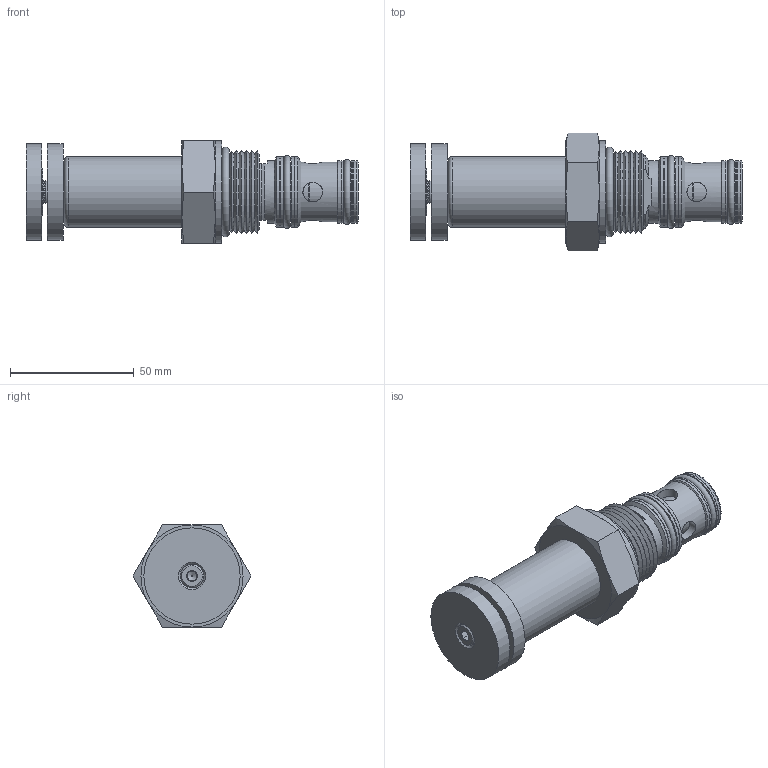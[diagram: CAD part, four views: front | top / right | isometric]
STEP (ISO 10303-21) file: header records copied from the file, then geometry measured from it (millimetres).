
FILE_DESCRIPTION((''),'2;1');
FILE_NAME('Q:\Delta CADD Insertion Codes\3D Solid models\Mechanical Valves\DWG\SLPWB0K.stp','2012-12-06T13:26:51',('Dan'),(''),'Autodesk Inventor 2012','Autodesk Inventor 2012','');
FILE_SCHEMA(('AUTOMOTIVE_DESIGN { 1 0 10303 214 1 1 1 1 }'));
Length unit declared in the file: inch
Products named in the file (11): Assembly23; Part314; Part316; Part318; Part320; Part322; Part324; Part326; Part328; Part330; Part332
Assembly tree (10 placements, depth 2):
  Assembly23
    Part314
    Part316
    Part318
    Part320
    Part322
    Part324
    Part326
    Part328
    Part330
    Part332
Bounding box: 134.11 x 47.66 x 41.27 mm (x, y, z)
Volume: 99214.5 mm3; surface area: 28926.6 mm2
Topology: 10 solids, 10 shells, 176 faces, 358 edges, 211 vertices
Faces by surface type: cone 74, plane 56, cylinder 41, torus 5
Full cylindrical faces by diameter (mm): 3.962 x1, 7.925 x4, 8.128 x1, 9.525 x4, 10.109 x1, 15.875 x1, 16.612 x2, 17.374 x1, 17.479 x1, 19.05 x2, 21.006 x1, 21.031 x2, 24.13 x1, 24.181 x1, 24.206 x2, 25.349 x4, 25.4 x1, 28.524 x4, 28.702 x1, 30.328 x1, 38.862 x2, 41.275 x1
Entity records: 4611 total; most frequent: CARTESIAN_POINT 1035, DIRECTION 747, ORIENTED_EDGE 520, AXIS2_PLACEMENT_3D 355, EDGE_LOOP 299, EDGE_CURVE 260, VERTEX_POINT 200, FACE_OUTER_BOUND 176
